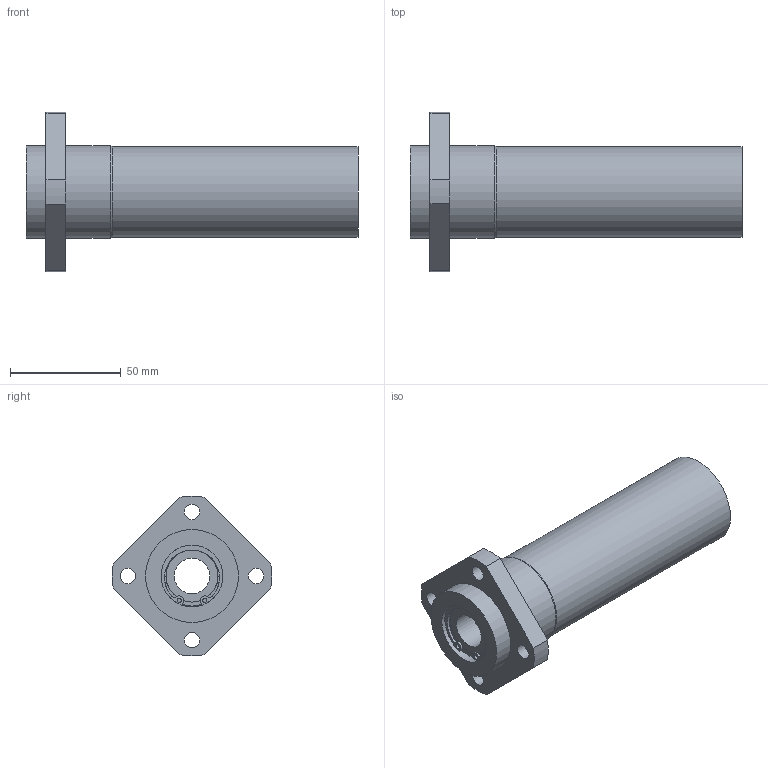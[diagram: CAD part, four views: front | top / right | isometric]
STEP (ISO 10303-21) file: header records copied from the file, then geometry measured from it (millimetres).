
FILE_DESCRIPTION((''),'2;1');
FILE_NAME('C:\Documents and Settings\土屋\My Documents\土屋移動用フォルダ\製品 (図面)\カタログ用3D\変換ファイル\OZAK_3D-CAD(STEP形式)\Part1.-Linear Bearings_ﾘﾆｱﾍﾞｱﾘﾝｸﾞ\09_Maintenance Free_ﾒｲﾝﾃﾅﾝｽﾌﾘｰ\L2017-09-22T13:58:15','2017-09-22T13:58:15',('y'),(''),'Autodesk Inventor 11','Autodesk Inventor 11','');
FILE_SCHEMA(('AUTOMOTIVE_DESIGN { 1 0 10303 214 1 1 1 1 }'));
Length unit declared in the file: millimetre
Products named in the file (1): LFWLB16MF
Bounding box: 150 x 71.91 x 71.91 mm (x, y, z)
Volume: 182987.6 mm3; surface area: 37879.8 mm2
Topology: 1 solids, 7 shells, 97 faces, 229 edges, 144 vertices
Faces by surface type: bspline 34, cylinder 32, plane 28, torus 2, cone 1
Full cylindrical faces by diameter (mm): 2 x2, 7 x4, 16 x2, 23.5 x2, 26.6 x2, 28 x8, 41 x1, 42 x2
Entity records: 2813 total; most frequent: CARTESIAN_POINT 754, DIRECTION 436, ORIENTED_EDGE 352, AXIS2_PLACEMENT_3D 196, EDGE_CURVE 176, EDGE_LOOP 166, CIRCLE 132, VERTEX_POINT 128
